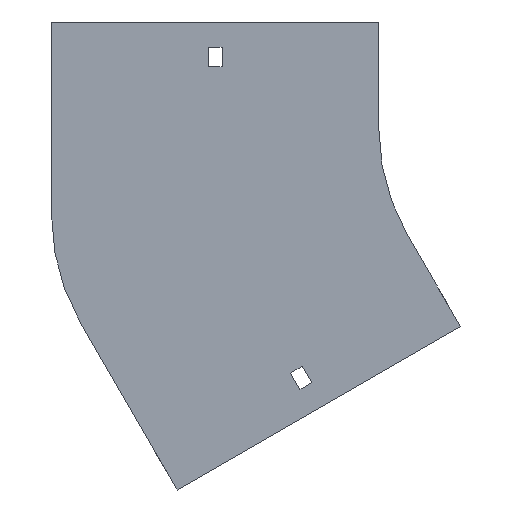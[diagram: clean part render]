
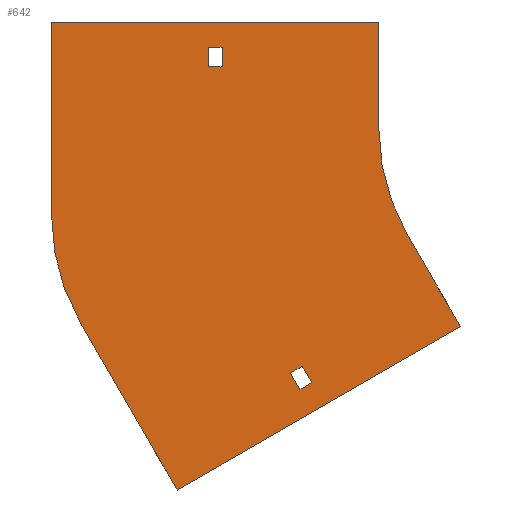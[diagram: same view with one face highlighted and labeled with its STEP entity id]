
A CAD part, front view. The second image highlights one B-rep face of the part: STEP entity #642.
In plain terms, the highlighted planar face has unit normal (0, -1, 0).
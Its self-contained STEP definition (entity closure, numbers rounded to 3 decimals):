
#10 = DIRECTION ( 'NONE',  ( 0., -1., 0. ) ) ;
#12 = VECTOR ( 'NONE', #630, 1000. ) ;
#18 = DIRECTION ( 'NONE',  ( -0.866, 0., -0.5 ) ) ;
#40 = CARTESIAN_POINT ( 'NONE',  ( -180.25, 0., 29. ) ) ;
#44 = ORIENTED_EDGE ( 'NONE', *, *, #356, .F. ) ;
#59 = VECTOR ( 'NONE', #1612, 1000. ) ;
#62 = LINE ( 'NONE', #1442, #617 ) ;
#102 = CARTESIAN_POINT ( 'NONE',  ( -254., 0., 50. ) ) ;
#124 = VECTOR ( 'NONE', #1674, 1000. ) ;
#135 = CARTESIAN_POINT ( 'NONE',  ( -194.97, 0., -170.301 ) ) ;
#157 = CARTESIAN_POINT ( 'NONE',  ( -180.25, 0., 29. ) ) ;
#169 = CARTESIAN_POINT ( 'NONE',  ( -61.603, 0., -93.301 ) ) ;
#174 = LINE ( 'NONE', #40, #706 ) ;
#229 = ORIENTED_EDGE ( 'NONE', *, *, #1788, .T. ) ;
#235 = VERTEX_POINT ( 'NONE', #1755 ) ;
#249 = LINE ( 'NONE', #1464, #455 ) ;
#261 = VECTOR ( 'NONE', #871, 1000. ) ;
#272 = EDGE_LOOP ( 'NONE', ( #1880, #1619, #1626, #1108 ) ) ;
#275 = CARTESIAN_POINT ( 'NONE',  ( -141.601, 0., -115.24 ) ) ;
#291 = CARTESIAN_POINT ( 'NONE',  ( -141.601, 0., -115.24 ) ) ;
#302 = LINE ( 'NONE', #291, #1161 ) ;
#316 = ORIENTED_EDGE ( 'NONE', *, *, #1767, .F. ) ;
#319 = ORIENTED_EDGE ( 'NONE', *, *, #614, .T. ) ;
#343 = DIRECTION ( 'NONE',  ( 0., 0., -1. ) ) ;
#355 = VERTEX_POINT ( 'NONE', #275 ) ;
#356 = EDGE_CURVE ( 'NONE', #235, #1081, #1497, .T. ) ;
#370 = FACE_BOUND ( 'NONE', #1838, .T. ) ;
#395 = CIRCLE ( 'NONE', #698, 100. ) ;
#402 = CARTESIAN_POINT ( 'NONE',  ( -173.75, 0., 29. ) ) ;
#417 = CARTESIAN_POINT ( 'NONE',  ( -254., 0., 50. ) ) ;
#419 = EDGE_CURVE ( 'NONE', #719, #1132, #395, .T. ) ;
#453 = LINE ( 'NONE', #610, #124 ) ;
#455 = VECTOR ( 'NONE', #992, 1000. ) ;
#457 = DIRECTION ( 'NONE',  ( 0.5, 0., -0.866 ) ) ;
#510 = DIRECTION ( 'NONE',  ( 0., -1., 0. ) ) ;
#512 = CARTESIAN_POINT ( 'NONE',  ( -137.101, 0., -123.034 ) ) ;
#521 = CARTESIAN_POINT ( 'NONE',  ( -180.25, 0., 38. ) ) ;
#528 = EDGE_CURVE ( 'NONE', #1590, #1193, #608, .T. ) ;
#532 = VECTOR ( 'NONE', #1109, 1000. ) ;
#569 = VERTEX_POINT ( 'NONE', #1820 ) ;
#608 = LINE ( 'NONE', #169, #12 ) ;
#610 = CARTESIAN_POINT ( 'NONE',  ( -180.25, 0., 29. ) ) ;
#614 = EDGE_CURVE ( 'NONE', #1750, #807, #174, .T. ) ;
#617 = VECTOR ( 'NONE', #1247, 1000. ) ;
#626 = PLANE ( 'NONE',  #1857 ) ;
#630 = DIRECTION ( 'NONE',  ( -0.866, 0., -0.5 ) ) ;
#634 = FACE_BOUND ( 'NONE', #272, .T. ) ;
#642 = ADVANCED_FACE ( 'NONE', ( #370, #1677, #634 ), #626, .T. ) ;
#698 = AXIS2_PLACEMENT_3D ( 'NONE', #745, #10, #1192 ) ;
#699 = LINE ( 'NONE', #135, #1811 ) ;
#706 = VECTOR ( 'NONE', #1584, 1000. ) ;
#719 = VERTEX_POINT ( 'NONE', #1323 ) ;
#724 = VECTOR ( 'NONE', #1308, 1000. ) ;
#733 = DIRECTION ( 'NONE',  ( 0., 1., 0. ) ) ;
#745 = CARTESIAN_POINT ( 'NONE',  ( 0., 0., 0. ) ) ;
#747 = EDGE_CURVE ( 'NONE', #1081, #1391, #1174, .T. ) ;
#773 = LINE ( 'NONE', #1556, #532 ) ;
#776 = CARTESIAN_POINT ( 'NONE',  ( 0., 0., 0. ) ) ;
#781 = EDGE_CURVE ( 'NONE', #1132, #1590, #249, .T. ) ;
#806 = CARTESIAN_POINT ( 'NONE',  ( -137.101, 0., -123.034 ) ) ;
#807 = VERTEX_POINT ( 'NONE', #521 ) ;
#812 = CARTESIAN_POINT ( 'NONE',  ( -135.972, 0., -111.99 ) ) ;
#842 = ORIENTED_EDGE ( 'NONE', *, *, #935, .T. ) ;
#871 = DIRECTION ( 'NONE',  ( 0., 0., 1. ) ) ;
#874 = LINE ( 'NONE', #1195, #1942 ) ;
#935 = EDGE_CURVE ( 'NONE', #569, #1750, #453, .T. ) ;
#946 = EDGE_CURVE ( 'NONE', #1519, #972, #773, .T. ) ;
#953 = LINE ( 'NONE', #1658, #986 ) ;
#964 = LINE ( 'NONE', #806, #1780 ) ;
#972 = VERTEX_POINT ( 'NONE', #812 ) ;
#976 = ORIENTED_EDGE ( 'NONE', *, *, #984, .F. ) ;
#984 = EDGE_CURVE ( 'NONE', #1391, #719, #62, .T. ) ;
#986 = VECTOR ( 'NONE', #457, 1000. ) ;
#992 = DIRECTION ( 'NONE',  ( 0.5, 0., -0.866 ) ) ;
#994 = DIRECTION ( 'NONE',  ( 0.866, 0., 0.5 ) ) ;
#1026 = ORIENTED_EDGE ( 'NONE', *, *, #528, .F. ) ;
#1053 = EDGE_LOOP ( 'NONE', ( #1743, #44, #1649, #316, #1026, #1418, #1182, #976 ) ) ;
#1081 = VERTEX_POINT ( 'NONE', #102 ) ;
#1087 = CARTESIAN_POINT ( 'NONE',  ( -131.472, 0., -119.784 ) ) ;
#1108 = ORIENTED_EDGE ( 'NONE', *, *, #946, .F. ) ;
#1109 = DIRECTION ( 'NONE',  ( -0.5, 0., 0.866 ) ) ;
#1132 = VERTEX_POINT ( 'NONE', #1624 ) ;
#1161 = VECTOR ( 'NONE', #18, 1000. ) ;
#1174 = LINE ( 'NONE', #417, #59 ) ;
#1182 = ORIENTED_EDGE ( 'NONE', *, *, #419, .F. ) ;
#1192 = DIRECTION ( 'NONE',  ( 0., 0., -1. ) ) ;
#1193 = VERTEX_POINT ( 'NONE', #1456 ) ;
#1195 = CARTESIAN_POINT ( 'NONE',  ( -180.25, 0., 38. ) ) ;
#1229 = EDGE_CURVE ( 'NONE', #355, #1343, #953, .T. ) ;
#1247 = DIRECTION ( 'NONE',  ( 0., 0., -1. ) ) ;
#1292 = CIRCLE ( 'NONE', #1479, 100. ) ;
#1300 = EDGE_CURVE ( 'NONE', #1470, #569, #1587, .T. ) ;
#1308 = DIRECTION ( 'NONE',  ( 0., 0., -1. ) ) ;
#1323 = CARTESIAN_POINT ( 'NONE',  ( -100., 0., 0. ) ) ;
#1338 = DIRECTION ( 'NONE',  ( -0.5, 0., 0.866 ) ) ;
#1343 = VERTEX_POINT ( 'NONE', #512 ) ;
#1351 = EDGE_CURVE ( 'NONE', #1343, #1519, #964, .T. ) ;
#1354 = DIRECTION ( 'NONE',  ( 0., 0., 1. ) ) ;
#1364 = CARTESIAN_POINT ( 'NONE',  ( -154., 0., -41.264 ) ) ;
#1391 = VERTEX_POINT ( 'NONE', #1913 ) ;
#1418 = ORIENTED_EDGE ( 'NONE', *, *, #781, .F. ) ;
#1442 = CARTESIAN_POINT ( 'NONE',  ( -100., 0., 50. ) ) ;
#1456 = CARTESIAN_POINT ( 'NONE',  ( -194.97, 0., -170.301 ) ) ;
#1464 = CARTESIAN_POINT ( 'NONE',  ( -86.603, 0., -50. ) ) ;
#1470 = VERTEX_POINT ( 'NONE', #1549 ) ;
#1479 = AXIS2_PLACEMENT_3D ( 'NONE', #1364, #733, #1354 ) ;
#1494 = CARTESIAN_POINT ( 'NONE',  ( -240.603, 0., -91.264 ) ) ;
#1497 = LINE ( 'NONE', #1802, #261 ) ;
#1503 = EDGE_CURVE ( 'NONE', #972, #355, #302, .T. ) ;
#1519 = VERTEX_POINT ( 'NONE', #1087 ) ;
#1549 = CARTESIAN_POINT ( 'NONE',  ( -173.75, 0., 38. ) ) ;
#1556 = CARTESIAN_POINT ( 'NONE',  ( -135.972, 0., -111.99 ) ) ;
#1582 = CARTESIAN_POINT ( 'NONE',  ( -61.603, 0., -93.301 ) ) ;
#1584 = DIRECTION ( 'NONE',  ( 0., 0., 1. ) ) ;
#1587 = LINE ( 'NONE', #402, #724 ) ;
#1588 = ORIENTED_EDGE ( 'NONE', *, *, #1300, .T. ) ;
#1590 = VERTEX_POINT ( 'NONE', #1582 ) ;
#1612 = DIRECTION ( 'NONE',  ( 1., 0., 0. ) ) ;
#1619 = ORIENTED_EDGE ( 'NONE', *, *, #1229, .F. ) ;
#1624 = CARTESIAN_POINT ( 'NONE',  ( -86.603, 0., -50. ) ) ;
#1626 = ORIENTED_EDGE ( 'NONE', *, *, #1503, .F. ) ;
#1633 = VERTEX_POINT ( 'NONE', #1494 ) ;
#1649 = ORIENTED_EDGE ( 'NONE', *, *, #1706, .F. ) ;
#1658 = CARTESIAN_POINT ( 'NONE',  ( -141.601, 0., -115.24 ) ) ;
#1674 = DIRECTION ( 'NONE',  ( -1., 0., 0. ) ) ;
#1677 = FACE_OUTER_BOUND ( 'NONE', #1053, .T. ) ;
#1706 = EDGE_CURVE ( 'NONE', #1633, #235, #1292, .T. ) ;
#1743 = ORIENTED_EDGE ( 'NONE', *, *, #747, .F. ) ;
#1750 = VERTEX_POINT ( 'NONE', #157 ) ;
#1755 = CARTESIAN_POINT ( 'NONE',  ( -254., 0., -41.264 ) ) ;
#1767 = EDGE_CURVE ( 'NONE', #1193, #1633, #699, .T. ) ;
#1780 = VECTOR ( 'NONE', #994, 1000. ) ;
#1788 = EDGE_CURVE ( 'NONE', #807, #1470, #874, .T. ) ;
#1802 = CARTESIAN_POINT ( 'NONE',  ( -254., 0., -41.264 ) ) ;
#1811 = VECTOR ( 'NONE', #1338, 1000. ) ;
#1820 = CARTESIAN_POINT ( 'NONE',  ( -173.75, 0., 29. ) ) ;
#1838 = EDGE_LOOP ( 'NONE', ( #319, #229, #1588, #842 ) ) ;
#1857 = AXIS2_PLACEMENT_3D ( 'NONE', #776, #510, #343 ) ;
#1880 = ORIENTED_EDGE ( 'NONE', *, *, #1351, .F. ) ;
#1913 = CARTESIAN_POINT ( 'NONE',  ( -100., 0., 50. ) ) ;
#1919 = DIRECTION ( 'NONE',  ( 1., 0., 0. ) ) ;
#1942 = VECTOR ( 'NONE', #1919, 1000. ) ;
